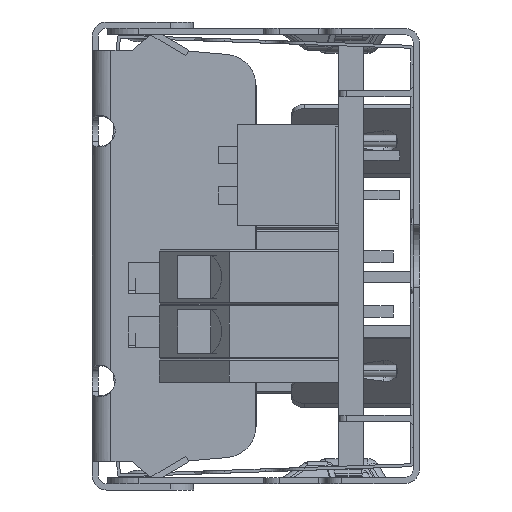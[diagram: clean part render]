
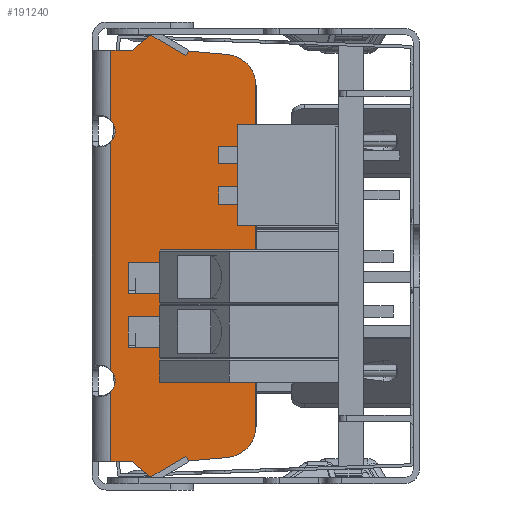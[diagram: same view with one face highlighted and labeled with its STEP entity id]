
A CAD part, left-side view. The second image highlights one B-rep face of the part: STEP entity #191240.
In plain terms, the highlighted planar face has unit normal (-1, 0, 0).
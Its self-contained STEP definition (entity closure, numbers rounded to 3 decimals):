
#143320=CARTESIAN_POINT('',(-80.5,13.2,19.8));
#143330=DIRECTION('',(0.,0.,
-1.));
#143340=VECTOR('',#143330,1.);
#143350=LINE('',#143320,#143340);
#143360=CARTESIAN_POINT('',(-80.5,13.2,19.8));
#143370=VERTEX_POINT('',#143360);
#143380=CARTESIAN_POINT('',(-80.5,13.2,18.43));
#143390=VERTEX_POINT('',#143380);
#143400=EDGE_CURVE('',#143370,#143390,#143350,.T.);
#143880=CARTESIAN_POINT('',(-80.5,8.685,19.8));
#143890=DIRECTION('',(0.,1.,0.));
#143900=VECTOR('',#143890,1.);
#143910=LINE('',#143880,#143900);
#143920=CARTESIAN_POINT('',(-80.5,8.685,19.8));
#143930=VERTEX_POINT('',#143920);
#143940=EDGE_CURVE('',#143930,#143370,#143910,.T.);
#145380=CARTESIAN_POINT('',(-80.5,7.315,19.8));
#145390=VERTEX_POINT('',#145380);
#146000=CARTESIAN_POINT('',(-80.5,-7.315,19.8));
#146010=VERTEX_POINT('',#146000);
#146040=CARTESIAN_POINT('',(-80.5,-7.315,19.8));
#146050=DIRECTION('',(0.,1.,0.));
#146060=VECTOR('',#146050,1.);
#146070=LINE('',#146040,#146060);
#146080=EDGE_CURVE('',#146010,#145390,#146070,.T.);
#147390=CARTESIAN_POINT('',(-80.5,-8.685,19.8));
#147400=VERTEX_POINT('',#147390);
#147960=CARTESIAN_POINT('',(-80.5,-13.2,19.8));
#147970=VERTEX_POINT('',#147960);
#148000=CARTESIAN_POINT('',(-80.5,-13.2,19.8));
#148010=DIRECTION('',(0.,1.,0.));
#148020=VECTOR('',#148010,1.);
#148030=LINE('',#148000,#148020);
#148040=EDGE_CURVE('',#147970,#147400,#148030,.T.);
#148510=CARTESIAN_POINT('',(-80.5,-13.2,18.43));
#148520=VERTEX_POINT('',#148510);
#148550=CARTESIAN_POINT('',(-80.5,-13.2,18.43));
#148560=DIRECTION('',(0.,0.,1.));
#148570=VECTOR('',#148560,1.);
#148580=LINE('',#148550,#148570);
#148590=EDGE_CURVE('',#148520,#147970,#148580,.T.);
#190060=CARTESIAN_POINT('',(-80.5,10.924,10.5));
#190070=VERTEX_POINT('',#190060);
#190150=CARTESIAN_POINT('',(-80.5,12.916,12.326));
#190160=VERTEX_POINT('',#190150);
#190190=CARTESIAN_POINT('',(-80.5,10.924,12.5));
#190200=DIRECTION('',(1.,0.,0.));
#190210=DIRECTION('',(0.,0.,-1.));
#190220=AXIS2_PLACEMENT_3D('',#190190,#190200,#190210);
#190230=CIRCLE('',#190220,2.);
#190240=EDGE_CURVE('',#190070,#190160,#190230,.T.);
#190360=CARTESIAN_POINT('',(-80.5,7.4,21.));
#190370=DIRECTION('',(-1.,0.,0.));
#190380=DIRECTION('',(0.,1.,0.));
#190390=AXIS2_PLACEMENT_3D('',#190360,#190370,#190380);
#190400=PLANE('',#190390);
#190410=CARTESIAN_POINT('',(-80.5,12.916,12.326));
#190420=DIRECTION('',(0.,0.087,0.996));
#190430=VECTOR('',#190420,1.);
#190440=LINE('',#190410,#190430);
#190450=CARTESIAN_POINT('',(-80.5,13.2,15.57));
#190460=VERTEX_POINT('',#190450);
#190470=EDGE_CURVE('',#190160,#190460,#190440,.T.);
#190480=ORIENTED_EDGE('',*,*,#190470,.F.);
#190490=CARTESIAN_POINT('',(-80.5,13.2,15.57));
#190500=DIRECTION('',(0.,0.643,0.766));
#190510=VECTOR('',#190500,1.);
#190520=LINE('',#190490,#190510);
#190530=CARTESIAN_POINT('',(-80.5,14.4,17.));
#190540=VERTEX_POINT('',#190530);
#190550=EDGE_CURVE('',#190460,#190540,#190520,.T.);
#190560=ORIENTED_EDGE('',*,*,#190550,.F.);
#190570=CARTESIAN_POINT('',(-80.5,14.4,17.));
#190580=DIRECTION('',(0.,-0.643,0.766));
#190590=VECTOR('',#190580,1.);
#190600=LINE('',#190570,#190590);
#190610=EDGE_CURVE('',#190540,#143390,#190600,.T.);
#190620=ORIENTED_EDGE('',*,*,#190610,.F.);
#190630=ORIENTED_EDGE('',*,*,#143400,.T.);
#190640=ORIENTED_EDGE('',*,*,#143940,.T.);
#190650=CARTESIAN_POINT('',(-80.5,8.,20.528));
#190660=DIRECTION('',(-1.,0.,0.));
#190670=DIRECTION('',(0.,0.685,-0.728));
#190680=AXIS2_PLACEMENT_3D('',#190650,#190660,#190670);
#190690=CIRCLE('',#190680,1.);
#190700=EDGE_CURVE('',#143930,#145390,#190690,.T.);
#190710=ORIENTED_EDGE('',*,*,#190700,.F.);
#190720=ORIENTED_EDGE('',*,*,#146080,.T.);
#190730=CARTESIAN_POINT('',(-80.5,-8.,20.528));
#190740=DIRECTION('',(-1.,0.,0.));
#190750=DIRECTION('',(0.,0.685,-0.728));
#190760=AXIS2_PLACEMENT_3D('',#190730,#190740,#190750);
#190770=CIRCLE('',#190760,1.);
#190780=EDGE_CURVE('',#146010,#147400,#190770,.T.);
#190790=ORIENTED_EDGE('',*,*,#190780,.F.);
#190800=ORIENTED_EDGE('',*,*,#148040,.T.);
#190810=ORIENTED_EDGE('',*,*,#148590,.T.);
#190820=CARTESIAN_POINT('',(-80.5,-13.2,18.43));
#190830=DIRECTION('',(0.,-0.643,-0.766));
#190840=VECTOR('',#190830,1.);
#190850=LINE('',#190820,#190840);
#190860=CARTESIAN_POINT('',(-80.5,-14.4,17.));
#190870=VERTEX_POINT('',#190860);
#190880=EDGE_CURVE('',#148520,#190870,#190850,.T.);
#190890=ORIENTED_EDGE('',*,*,#190880,.F.);
#190900=CARTESIAN_POINT('',(-80.5,-14.4,17.));
#190910=DIRECTION('',(0.,0.643,-0.766));
#190920=VECTOR('',#190910,1.);
#190930=LINE('',#190900,#190920);
#190940=CARTESIAN_POINT('',(-80.5,-13.2,15.57));
#190950=VERTEX_POINT('',#190940);
#190960=EDGE_CURVE('',#190870,#190950,#190930,.T.);
#190970=ORIENTED_EDGE('',*,*,#190960,.F.);
#190980=CARTESIAN_POINT('',(-80.5,-13.2,15.57));
#190990=DIRECTION('',(0.,0.087,-0.996));
#191000=VECTOR('',#190990,1.);
#191010=LINE('',#190980,#191000);
#191020=CARTESIAN_POINT('',(-80.5,-12.916,12.326));
#191030=VERTEX_POINT('',#191020);
#191040=EDGE_CURVE('',#190950,#191030,#191010,.T.);
#191050=ORIENTED_EDGE('',*,*,#191040,.F.);
#191060=CARTESIAN_POINT('',(-80.5,-10.924,12.5));
#191070=DIRECTION('',(1.,0.,0.));
#191080=DIRECTION('',(0.,-0.996,-0.087));
#191090=AXIS2_PLACEMENT_3D('',#191060,#191070,#191080);
#191100=CIRCLE('',#191090,2.);
#191110=CARTESIAN_POINT('',(-80.5,-10.924,10.5));
#191120=VERTEX_POINT('',#191110);
#191130=EDGE_CURVE('',#191030,#191120,#191100,.T.);
#191140=ORIENTED_EDGE('',*,*,#191130,.F.);
#191150=CARTESIAN_POINT('',(-80.5,-10.924,10.5));
#191160=DIRECTION('',(0.,1.,0.));
#191170=VECTOR('',#191160,1.);
#191180=LINE('',#191150,#191170);
#191190=EDGE_CURVE('',#191120,#190070,#191180,.T.);
#191200=ORIENTED_EDGE('',*,*,#191190,.F.);
#191210=ORIENTED_EDGE('',*,*,#190240,.F.);
#191220=EDGE_LOOP('',(#191210,#191200,#191140,#191050,#190970,#190890,
#190810,#190800,#190790,#190720,#190710,#190640,#190630,#190620,#190560,
#190480));
#191230=FACE_OUTER_BOUND('',#191220,.T.);
#191240=ADVANCED_FACE('',(#191230),#190400,.T.);
